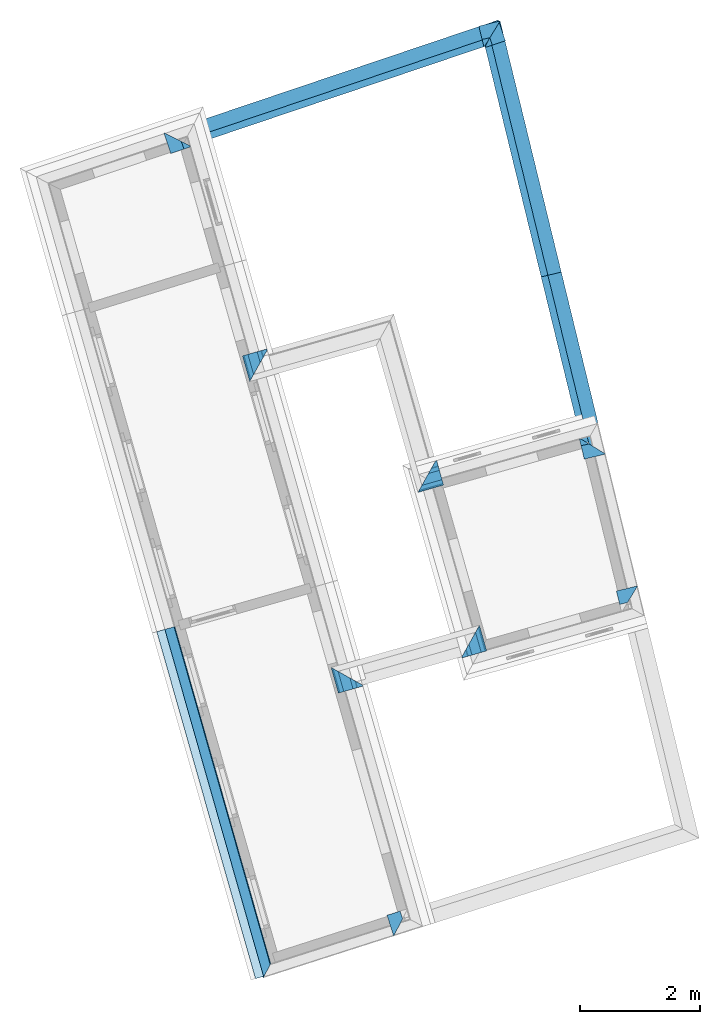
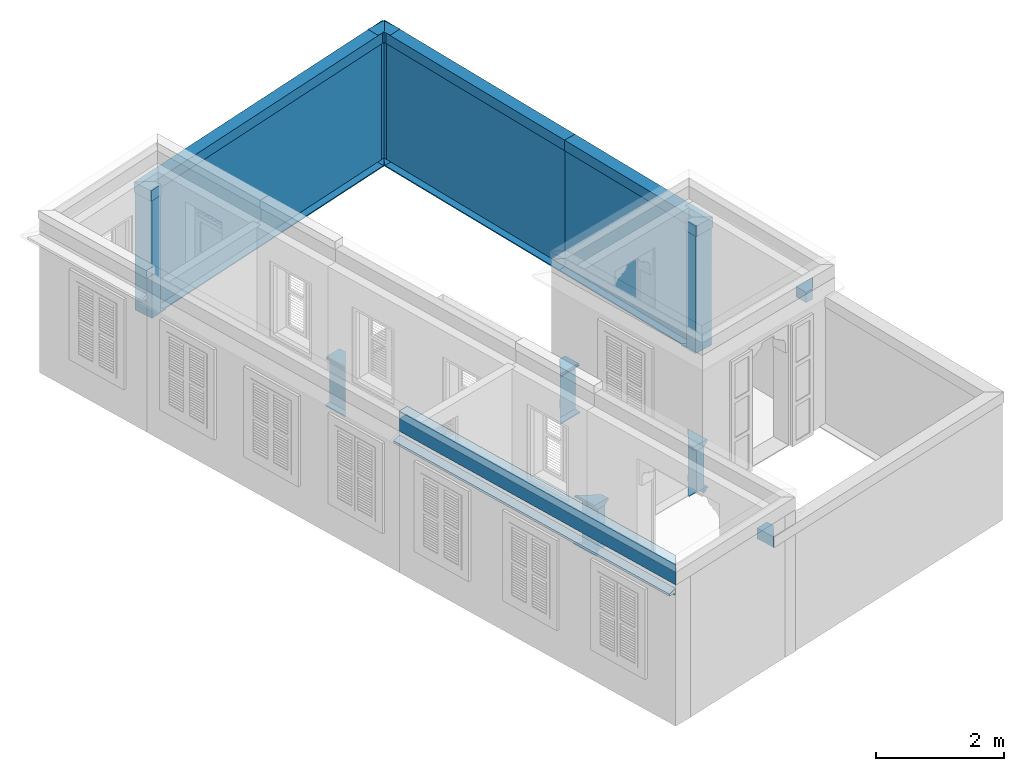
# One storey, part 11 of 13: 28 walls, 3 roofs.
"""IFC4 building model written with IfcOpenShell, lengths in metres."""

from ifc_helpers import new_model, si_unit, frame, origin_with_axes, place, context, subcontext, project, spatial, polyline, outline, extrude, clip, halfspace, material_profile, profile_set, profile_usage, type_object, element, save


model = new_model("IFC4")

# Units and contexts
model_context = context("Model", 3, world=origin_with_axes())
body_context = subcontext(model_context, "Body", "Model", "MODEL_VIEW")
ifc_project = project(units=[si_unit("PLANEANGLEUNIT", "RADIAN"), si_unit("MASSUNIT", "GRAM", prefix="KILO"), si_unit("FORCEUNIT", "NEWTON", prefix="KILO"), si_unit("LENGTHUNIT", "METRE"), si_unit("AREAUNIT", "SQUARE_METRE"), si_unit("VOLUMEUNIT", "CUBIC_METRE")], contexts=[model_context, model_context])

# Site, building, storey
site_placement = place(None, origin_with_axes())
site = spatial("IfcSite", under=ifc_project, at=site_placement, Name="Site plot-3", CompositionType="ELEMENT")
building_placement = place(None, origin_with_axes())
building = spatial("IfcBuilding", under=site, at=building_placement, Name="Building plot-3", CompositionType="ELEMENT")
storey_placement = place(None, frame((0.0, 0.0, 3.3), z_axis=(0.0, 0.0, 1.0), x_axis=(1.0, 0.0, 0.0)))
storey = spatial("IfcBuildingStorey", under=building, at=storey_placement, Name="plot-3 1", CompositionType="ELEMENT", Elevation=3.3)

# Walls
ifc_material_profile_1 = material_profile(None, outline(polyline([(0.25, 0.0), (0.25, 2.245), (0.05, 2.245), (0.05, 0.02), (-0.08, 0.02), (-0.08, 0.0), (0.25, 0.0)])))
ifc_profile_set_1 = profile_set([ifc_material_profile_1])
ifc_profile_usage_1 = profile_usage(ifc_profile_set_1)
wall_type_1 = type_object("IfcWallType", Name="parapet street_0", PredefinedType="PARAPET", material=ifc_profile_set_1)
wall_1_placement = place(storey_placement, frame((13.7820953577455, 31.4328664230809, 0.0), z_axis=(0.31946404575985, -0.947598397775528, 0.0), x_axis=(0.947598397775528, 0.31946404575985, 0.0)))
element("IfcWall", 1, at=wall_1_placement, inside=storey, type_object=wall_type_1, material=ifc_profile_usage_1, Name="parapet street_0", context=body_context, shape_type="Clipping", body=[
    clip(clip(extrude(outline(polyline([(0.25, 0.0), (0.25, 2.245), (0.05, 2.245), (0.05, 0.02), (-0.08, 0.02), (-0.08, 0.0), (0.25, 0.0)])), origin_with_axes(), (0.0, 0.0, 1.0), 2.1), halfspace(frame((0.0, 0.0, 1.1), z_axis=(-1.39349996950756e-15, 0.0, -1.0), x_axis=(0.0, 1.0, 0.0)), True)), halfspace(frame((0.0, 0.0, 1.0), z_axis=(-0.707106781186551, 0.0, -0.707106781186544), x_axis=(0.0, 1.0, 0.0)), False)),
])
ifc_profile_usage_2 = profile_usage(ifc_profile_set_1)
wall_2_placement = place(storey_placement, frame((8.0762523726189, 28.4539550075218, 0.0), z_axis=(0.947598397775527, 0.319464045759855, 0.0), x_axis=(-0.319464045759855, 0.947598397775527, 0.0)))
element("IfcWall", 2, at=wall_2_placement, inside=storey, type_object=wall_type_1, material=ifc_profile_usage_2, Name="parapet street_0", context=body_context, shape_type="Clipping", body=[
    clip(clip(extrude(outline(polyline([(0.25, 0.0), (0.25, 2.245), (0.05, 2.245), (0.05, 0.02), (-0.08, 0.02), (-0.08, 0.0), (0.25, 0.0)])), origin_with_axes(), (0.0, 0.0, 1.0), 7.35850276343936), halfspace(frame((0.0, 0.0, 6.35850276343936), z_axis=(0.707106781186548, 0.0, -0.707106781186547), x_axis=(0.0, 1.0, 0.0)), True)), halfspace(frame((0.0, 0.0, 1.0), z_axis=(-0.707106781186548, 0.0, -0.707106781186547), x_axis=(0.0, 1.0, 0.0)), False)),
])
ifc_profile_usage_3 = profile_usage(ifc_profile_set_1)
wall_3_placement = place(storey_placement, frame((9.37526122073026, 27.7310608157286, 0.0), z_axis=(-0.31946404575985, 0.947598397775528, 0.0), x_axis=(-0.947598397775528, -0.31946404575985, 0.0)))
element("IfcWall", 3, at=wall_3_placement, inside=storey, type_object=wall_type_1, material=ifc_profile_usage_3, Name="parapet street_0", context=body_context, shape_type="Clipping", body=[
    clip(clip(extrude(outline(polyline([(0.25, 0.0), (0.25, 2.245), (0.05, 2.245), (0.05, 0.02), (-0.08, 0.02), (-0.08, 0.0), (0.25, 0.0)])), origin_with_axes(), (0.0, 0.0, 1.0), 2.1), halfspace(frame((0.0, 0.0, 1.1), z_axis=(0.707106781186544, 0.0, -0.707106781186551), x_axis=(0.0, 1.0, 0.0)), True)), halfspace(frame((0.0, 0.0, 1.0), z_axis=(-9.49410759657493e-16, 0.0, -1.0), x_axis=(0.0, 1.0, 0.0)), False)),
])
ifc_material_profile_2 = material_profile(None, outline(polyline([(0.265, 2.245), (0.265, 2.445), (0.035, 2.445), (0.035, 2.245), (0.265, 2.245)])))
ifc_profile_set_2 = profile_set([ifc_material_profile_2])
ifc_profile_usage_4 = profile_usage(ifc_profile_set_2)
wall_type_2 = type_object("IfcWallType", Name="parapet street_1", PredefinedType="PARAPET", material=ifc_profile_set_2)
wall_4_placement = place(storey_placement, frame((13.7820953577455, 31.4328664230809, 0.0), z_axis=(0.31946404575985, -0.947598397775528, 0.0), x_axis=(0.947598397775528, 0.31946404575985, 0.0)))
element("IfcWall", 4, at=wall_4_placement, inside=storey, type_object=wall_type_2, material=ifc_profile_usage_4, Name="parapet street_1", context=body_context, shape_type="Clipping", body=[
    clip(clip(extrude(outline(polyline([(0.265, 2.245), (0.265, 2.445), (0.035, 2.445), (0.035, 2.245), (0.265, 2.245)])), origin_with_axes(), (0.0, 0.0, 1.0), 2.1), halfspace(frame((0.0, 0.0, 1.1), z_axis=(-1.39349996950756e-15, 0.0, -1.0), x_axis=(0.0, 1.0, 0.0)), True)), halfspace(frame((0.0, 0.0, 1.0), z_axis=(-0.707106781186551, 0.0, -0.707106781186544), x_axis=(0.0, 1.0, 0.0)), False)),
])
ifc_profile_usage_5 = profile_usage(ifc_profile_set_2)
wall_5_placement = place(storey_placement, frame((8.0762523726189, 28.4539550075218, 0.0), z_axis=(0.947598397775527, 0.319464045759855, 0.0), x_axis=(-0.319464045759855, 0.947598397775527, 0.0)))
element("IfcWall", 5, at=wall_5_placement, inside=storey, type_object=wall_type_2, material=ifc_profile_usage_5, Name="parapet street_1", context=body_context, shape_type="Clipping", body=[
    clip(clip(extrude(outline(polyline([(0.265, 2.245), (0.265, 2.445), (0.035, 2.445), (0.035, 2.245), (0.265, 2.245)])), origin_with_axes(), (0.0, 0.0, 1.0), 7.35850276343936), halfspace(frame((0.0, 0.0, 6.35850276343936), z_axis=(0.707106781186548, 0.0, -0.707106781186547), x_axis=(0.0, 1.0, 0.0)), True)), halfspace(frame((0.0, 0.0, 1.0), z_axis=(-0.707106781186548, 0.0, -0.707106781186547), x_axis=(0.0, 1.0, 0.0)), False)),
])
ifc_profile_usage_6 = profile_usage(ifc_profile_set_2)
wall_6_placement = place(storey_placement, frame((9.37526122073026, 27.7310608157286, 0.0), z_axis=(-0.31946404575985, 0.947598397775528, 0.0), x_axis=(-0.947598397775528, -0.31946404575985, 0.0)))
element("IfcWall", 6, at=wall_6_placement, inside=storey, type_object=wall_type_2, material=ifc_profile_usage_6, Name="parapet street_1", context=body_context, shape_type="Clipping", body=[
    clip(clip(extrude(outline(polyline([(0.265, 2.245), (0.265, 2.445), (0.035, 2.445), (0.035, 2.245), (0.265, 2.245)])), origin_with_axes(), (0.0, 0.0, 1.0), 2.1), halfspace(frame((0.0, 0.0, 1.1), z_axis=(0.707106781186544, 0.0, -0.707106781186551), x_axis=(0.0, 1.0, 0.0)), True)), halfspace(frame((0.0, 0.0, 1.0), z_axis=(-9.49410759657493e-16, 0.0, -1.0), x_axis=(0.0, 1.0, 0.0)), False)),
])
ifc_material_profile_3 = material_profile(None, outline(polyline([(0.25, 0.0), (0.25, 2.245), (0.05, 2.245), (0.05, 0.02), (-0.08, 0.02), (-0.08, 0.0), (0.25, 0.0)])))
ifc_profile_set_3 = profile_set([ifc_material_profile_3])
ifc_profile_usage_7 = profile_usage(ifc_profile_set_3)
wall_type_3 = type_object("IfcWallType", Name="parapet party_0", PredefinedType="PARAPET", material=ifc_profile_set_3)
wall_7_placement = place(storey_placement, frame((16.7065510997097, 24.0145612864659, 0.0), z_axis=(-0.971605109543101, -0.236608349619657, 0.0), x_axis=(0.236608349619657, -0.971605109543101, 0.0)))
element("IfcWall", 7, at=wall_7_placement, inside=storey, type_object=wall_type_3, material=ifc_profile_usage_7, Name="parapet party_0", context=body_context, shape_type="Clipping", body=[
    clip(clip(extrude(outline(polyline([(0.25, 0.0), (0.25, 2.245), (0.05, 2.245), (0.05, 0.02), (-0.08, 0.02), (-0.08, 0.0), (0.25, 0.0)])), origin_with_axes(), (0.0, 0.0, 1.0), 2.1), halfspace(frame((0.0, 0.0, 1.1), z_axis=(1.04899068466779e-15, 0.0, -1.0), x_axis=(0.0, 1.0, 0.0)), True)), halfspace(frame((0.0, 0.0, 1.0), z_axis=(-0.707106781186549, 0.0, -0.707106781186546), x_axis=(0.0, 1.0, 0.0)), False)),
])
ifc_profile_usage_8 = profile_usage(ifc_profile_set_3)
wall_8_placement = place(storey_placement, frame((14.8221364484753, 27.5263008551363, 0.0), z_axis=(0.236608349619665, -0.9716051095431, 0.0), x_axis=(0.9716051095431, 0.236608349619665, 0.0)))
element("IfcWall", 8, at=wall_8_placement, inside=storey, type_object=wall_type_3, material=ifc_profile_usage_8, Name="parapet party_0", context=body_context, shape_type="Clipping", body=[
    clip(clip(extrude(outline(polyline([(0.25, 0.0), (0.25, 2.245), (0.05, 2.245), (0.05, 0.02), (-0.08, 0.02), (-0.08, 0.0), (0.25, 0.0)])), origin_with_axes(), (0.0, 0.0, 1.0), 4.85789234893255), halfspace(frame((0.0, 0.0, 3.85789234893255), z_axis=(0.707106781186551, 0.0, -0.707106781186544), x_axis=(0.0, 1.0, 0.0)), True)), halfspace(frame((0.0, 0.0, 1.0), z_axis=(-6.12323399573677e-17, 0.0, -1.0), x_axis=(0.0, 1.0, 0.0)), False)),
])
ifc_profile_usage_9 = profile_usage(ifc_profile_set_3)
wall_9_placement = place(storey_placement, frame((13.8649510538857, 31.4568731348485, 0.0), z_axis=(0.236608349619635, -0.971605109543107, 0.0), x_axis=(0.971605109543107, 0.236608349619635, 0.0)))
element("IfcWall", 9, at=wall_9_placement, inside=storey, type_object=wall_type_3, material=ifc_profile_usage_9, Name="parapet party_0", context=body_context, shape_type="Clipping", body=[
    clip(clip(extrude(outline(polyline([(0.25, 0.0), (0.25, 2.245), (0.05, 2.245), (0.05, 0.02), (-0.08, 0.02), (-0.08, 0.0), (0.25, 0.0)])), origin_with_axes(), (0.0, 0.0, 1.0), 6.04544216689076), halfspace(frame((0.0, 0.0, 5.04544216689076), z_axis=(-3.13695216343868e-14, 0.0, -1.0), x_axis=(0.0, 1.0, 0.0)), True)), halfspace(frame((0.0, 0.0, 1.0), z_axis=(-0.707106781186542, 0.0, -0.707106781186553), x_axis=(0.0, 1.0, 0.0)), False)),
])
ifc_profile_usage_10 = profile_usage(ifc_profile_set_3)
wall_10_placement = place(storey_placement, frame((13.0327937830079, 30.2249988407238, 0.0), z_axis=(0.97160510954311, 0.236608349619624, 0.0), x_axis=(-0.236608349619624, 0.97160510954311, 0.0)))
element("IfcWall", 10, at=wall_10_placement, inside=storey, type_object=wall_type_3, material=ifc_profile_usage_10, Name="parapet party_0", context=body_context, shape_type="Clipping", body=[
    clip(clip(extrude(outline(polyline([(0.25, 0.0), (0.25, 2.245), (0.05, 2.245), (0.05, 0.02), (-0.08, 0.02), (-0.08, 0.0), (0.25, 0.0)])), origin_with_axes(), (0.0, 0.0, 1.0), 2.1), halfspace(frame((0.0, 0.0, 1.1), z_axis=(0.707106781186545, 0.0, -0.70710678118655), x_axis=(0.0, 1.0, 0.0)), True)), halfspace(frame((0.0, 0.0, 1.0), z_axis=(-9.49410759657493e-16, 0.0, -1.0), x_axis=(0.0, 1.0, 0.0)), False)),
])
ifc_material_profile_4 = material_profile(None, outline(polyline([(0.265, 2.245), (0.265, 2.445), (0.035, 2.445), (0.035, 2.245), (0.265, 2.245)])))
ifc_profile_set_4 = profile_set([ifc_material_profile_4])
ifc_profile_usage_11 = profile_usage(ifc_profile_set_4)
wall_type_4 = type_object("IfcWallType", Name="parapet party_1", PredefinedType="PARAPET", material=ifc_profile_set_4)
wall_11_placement = place(storey_placement, frame((16.7065510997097, 24.0145612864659, 0.0), z_axis=(-0.971605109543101, -0.236608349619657, 0.0), x_axis=(0.236608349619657, -0.971605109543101, 0.0)))
element("IfcWall", 11, at=wall_11_placement, inside=storey, type_object=wall_type_4, material=ifc_profile_usage_11, Name="parapet party_1", context=body_context, shape_type="Clipping", body=[
    clip(clip(extrude(outline(polyline([(0.265, 2.245), (0.265, 2.445), (0.035, 2.445), (0.035, 2.245), (0.265, 2.245)])), origin_with_axes(), (0.0, 0.0, 1.0), 2.1), halfspace(frame((0.0, 0.0, 1.1), z_axis=(1.04899068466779e-15, 0.0, -1.0), x_axis=(0.0, 1.0, 0.0)), True)), halfspace(frame((0.0, 0.0, 1.0), z_axis=(-0.707106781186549, 0.0, -0.707106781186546), x_axis=(0.0, 1.0, 0.0)), False)),
])
ifc_profile_usage_12 = profile_usage(ifc_profile_set_4)
wall_12_placement = place(storey_placement, frame((14.8221364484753, 27.5263008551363, 0.0), z_axis=(0.236608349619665, -0.9716051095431, 0.0), x_axis=(0.9716051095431, 0.236608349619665, 0.0)))
element("IfcWall", 12, at=wall_12_placement, inside=storey, type_object=wall_type_4, material=ifc_profile_usage_12, Name="parapet party_1", context=body_context, shape_type="Clipping", body=[
    clip(clip(extrude(outline(polyline([(0.265, 2.245), (0.265, 2.445), (0.035, 2.445), (0.035, 2.245), (0.265, 2.245)])), origin_with_axes(), (0.0, 0.0, 1.0), 4.85789234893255), halfspace(frame((0.0, 0.0, 3.85789234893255), z_axis=(0.707106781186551, 0.0, -0.707106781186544), x_axis=(0.0, 1.0, 0.0)), True)), halfspace(frame((0.0, 0.0, 1.0), z_axis=(-6.12323399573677e-17, 0.0, -1.0), x_axis=(0.0, 1.0, 0.0)), False)),
])
ifc_profile_usage_13 = profile_usage(ifc_profile_set_4)
wall_13_placement = place(storey_placement, frame((13.8649510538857, 31.4568731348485, 0.0), z_axis=(0.236608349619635, -0.971605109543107, 0.0), x_axis=(0.971605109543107, 0.236608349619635, 0.0)))
element("IfcWall", 13, at=wall_13_placement, inside=storey, type_object=wall_type_4, material=ifc_profile_usage_13, Name="parapet party_1", context=body_context, shape_type="Clipping", body=[
    clip(clip(extrude(outline(polyline([(0.265, 2.245), (0.265, 2.445), (0.035, 2.445), (0.035, 2.245), (0.265, 2.245)])), origin_with_axes(), (0.0, 0.0, 1.0), 6.04544216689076), halfspace(frame((0.0, 0.0, 5.04544216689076), z_axis=(-3.13695216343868e-14, 0.0, -1.0), x_axis=(0.0, 1.0, 0.0)), True)), halfspace(frame((0.0, 0.0, 1.0), z_axis=(-0.707106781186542, 0.0, -0.707106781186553), x_axis=(0.0, 1.0, 0.0)), False)),
])
ifc_profile_usage_14 = profile_usage(ifc_profile_set_4)
wall_14_placement = place(storey_placement, frame((13.0327937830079, 30.2249988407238, 0.0), z_axis=(0.97160510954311, 0.236608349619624, 0.0), x_axis=(-0.236608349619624, 0.97160510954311, 0.0)))
element("IfcWall", 14, at=wall_14_placement, inside=storey, type_object=wall_type_4, material=ifc_profile_usage_14, Name="parapet party_1", context=body_context, shape_type="Clipping", body=[
    clip(clip(extrude(outline(polyline([(0.265, 2.245), (0.265, 2.445), (0.035, 2.445), (0.035, 2.245), (0.265, 2.245)])), origin_with_axes(), (0.0, 0.0, 1.0), 2.1), halfspace(frame((0.0, 0.0, 1.1), z_axis=(0.707106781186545, 0.0, -0.70710678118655), x_axis=(0.0, 1.0, 0.0)), True)), halfspace(frame((0.0, 0.0, 1.0), z_axis=(-9.49410759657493e-16, 0.0, -1.0), x_axis=(0.0, 1.0, 0.0)), False)),
])
ifc_material_profile_5 = material_profile(None, outline(polyline([(0.265, 2.245), (0.265, 2.445), (0.035, 2.445), (0.035, 2.245), (0.265, 2.245)])))
ifc_profile_set_5 = profile_set([ifc_material_profile_5])
ifc_profile_usage_15 = profile_usage(ifc_profile_set_5)
wall_type_5 = type_object("IfcWallType", Name="parapet party_1", PredefinedType="PARAPET", material=ifc_profile_set_5)
wall_15_placement = place(storey_placement, frame((12.9981377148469, 14.9234953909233, 0.0), z_axis=(-0.305393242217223, 0.952226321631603, 0.0), x_axis=(-0.952226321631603, -0.305393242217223, 0.0)))
element("IfcWall", 15, at=wall_15_placement, inside=storey, type_object=wall_type_5, material=ifc_profile_usage_15, Name="parapet party_1", context=body_context, shape_type="Clipping", body=[
    clip(clip(extrude(outline(polyline([(0.265, 2.245), (0.265, 2.445), (0.035, 2.445), (0.035, 2.245), (0.265, 2.245)])), origin_with_axes(), (0.0, 0.0, 1.0), 2.1), halfspace(frame((0.0, 0.0, 1.1), z_axis=(6.04901474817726e-16, 0.0, -1.0), x_axis=(0.0, 1.0, 0.0)), True)), halfspace(frame((0.0, 0.0, 1.0), z_axis=(-0.707106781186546, 0.0, -0.707106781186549), x_axis=(0.0, 1.0, 0.0)), False)),
])
ifc_profile_usage_16 = profile_usage(ifc_profile_set_5)
wall_16_placement = place(storey_placement, frame((15.3270406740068, 20.8039365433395, 0.0), z_axis=(0.97160510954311, 0.236608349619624, 0.0), x_axis=(-0.236608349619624, 0.97160510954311, 0.0)))
element("IfcWall", 16, at=wall_16_placement, inside=storey, type_object=wall_type_5, material=ifc_profile_usage_16, Name="parapet party_1", context=body_context, shape_type="Clipping", body=[
    clip(clip(extrude(outline(polyline([(0.265, 2.245), (0.265, 2.445), (0.035, 2.445), (0.035, 2.245), (0.265, 2.245)])), origin_with_axes(), (0.0, 0.0, 1.0), 2.1), halfspace(frame((0.0, 0.0, 1.1), z_axis=(0.707106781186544, 0.0, -0.707106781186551), x_axis=(0.0, 1.0, 0.0)), True)), halfspace(frame((0.0, 0.0, 1.0), z_axis=(8.26946079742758e-16, 0.0, -1.0), x_axis=(0.0, 1.0, 0.0)), False)),
])
ifc_material_profile_6 = material_profile(None, outline(polyline([(0.25, 0.0), (0.25, 0.795), (0.09, 0.795), (0.09, 0.02), (-0.08, 0.02), (-0.08, 0.0), (0.25, 0.0)])))
ifc_profile_set_6 = profile_set([ifc_material_profile_6])
ifc_profile_usage_17 = profile_usage(ifc_profile_set_6)
wall_type_6 = type_object("IfcWallType", Name="parapet internal_0", PredefinedType="PARAPET", material=ifc_profile_set_6)
wall_17_placement = place(storey_placement, frame((13.4401764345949, 21.2631160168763, 0.0), z_axis=(0.273606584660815, -0.961841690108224, 0.0), x_axis=(0.961841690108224, 0.273606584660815, 0.0)))
element("IfcWall", 17, at=wall_17_placement, inside=storey, type_object=wall_type_6, material=ifc_profile_usage_17, Name="parapet internal_0", context=body_context, shape_type="Clipping", body=[
    clip(clip(extrude(outline(polyline([(0.25, 0.0), (0.25, 0.795), (0.09, 0.795), (0.09, 0.02), (-0.08, 0.02), (-0.08, 0.0), (0.25, 0.0)])), origin_with_axes(), (0.0, 0.0, 1.0), 2.1), halfspace(frame((0.0, 0.0, 1.1), z_axis=(-6.12323399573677e-17, 0.0, -1.0), x_axis=(0.0, 1.0, 0.0)), True)), halfspace(frame((0.0, 0.0, 1.0), z_axis=(-0.707106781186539, 0.0, -0.707106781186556), x_axis=(0.0, 1.0, 0.0)), False)),
])
ifc_profile_usage_18 = profile_usage(ifc_profile_set_6)
wall_18_placement = place(storey_placement, frame((12.2036622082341, 18.7280642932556, 0.0), z_axis=(-0.273606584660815, 0.961841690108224, 0.0), x_axis=(-0.961841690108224, -0.273606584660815, 0.0)))
element("IfcWall", 18, at=wall_18_placement, inside=storey, type_object=wall_type_6, material=ifc_profile_usage_18, Name="parapet internal_0", context=body_context, shape_type="Clipping", body=[
    clip(clip(extrude(outline(polyline([(0.25, 0.0), (0.25, 0.795), (0.09, 0.795), (0.09, 0.02), (-0.08, 0.02), (-0.08, 0.0), (0.25, 0.0)])), origin_with_axes(), (0.0, 0.0, 1.0), 2.1), halfspace(frame((0.0, 0.0, 1.1), z_axis=(0.707106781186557, 0.0, -0.707106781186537), x_axis=(0.0, 1.0, 0.0)), True)), halfspace(frame((0.0, 0.0, 1.0), z_axis=(1.04899068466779e-15, 0.0, -1.0), x_axis=(0.0, 1.0, 0.0)), False)),
])
ifc_material_profile_7 = material_profile(None, outline(polyline([(0.265, 0.795), (0.268, 0.807), (0.274, 0.816), (0.283, 0.822), (0.295, 0.825), (0.295, 0.84), (0.305, 0.84), (0.317, 0.842), (0.326, 0.849), (0.333, 0.858), (0.335, 0.87), (0.333, 0.882), (0.326, 0.891), (0.317, 0.898), (0.305, 0.9), (0.035, 0.9), (0.023, 0.898), (0.014, 0.891), (0.007, 0.882), (0.005, 0.87), (0.007, 0.858), (0.014, 0.849), (0.023, 0.842), (0.035, 0.84), (0.045, 0.84), (0.045, 0.825), (0.057, 0.822), (0.066, 0.816), (0.072, 0.807), (0.075, 0.795), (0.265, 0.795)])))
ifc_profile_set_7 = profile_set([ifc_material_profile_7])
ifc_profile_usage_19 = profile_usage(ifc_profile_set_7)
wall_type_7 = type_object("IfcWallType", Name="parapet internal_1", PredefinedType="PARAPET", material=ifc_profile_set_7)
wall_19_placement = place(storey_placement, frame((13.4401764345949, 21.2631160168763, 0.0), z_axis=(0.273606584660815, -0.961841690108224, 0.0), x_axis=(0.961841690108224, 0.273606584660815, 0.0)))
element("IfcWall", 19, at=wall_19_placement, inside=storey, type_object=wall_type_7, material=ifc_profile_usage_19, Name="parapet internal_1", context=body_context, shape_type="Clipping", body=[
    clip(clip(extrude(outline(polyline([(0.265, 0.795), (0.268, 0.807), (0.274, 0.816), (0.283, 0.822), (0.295, 0.825), (0.295, 0.84), (0.305, 0.84), (0.317, 0.842), (0.326, 0.849), (0.333, 0.858), (0.335, 0.87), (0.333, 0.882), (0.326, 0.891), (0.317, 0.898), (0.305, 0.9), (0.035, 0.9), (0.023, 0.898), (0.014, 0.891), (0.007, 0.882), (0.005, 0.87), (0.007, 0.858), (0.014, 0.849), (0.023, 0.842), (0.035, 0.84), (0.045, 0.84), (0.045, 0.825), (0.057, 0.822), (0.066, 0.816), (0.072, 0.807), (0.075, 0.795), (0.265, 0.795)])), origin_with_axes(), (0.0, 0.0, 1.0), 2.1), halfspace(frame((0.0, 0.0, 1.1), z_axis=(-6.12323399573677e-17, 0.0, -1.0), x_axis=(0.0, 1.0, 0.0)), True)), halfspace(frame((0.0, 0.0, 1.0), z_axis=(-0.707106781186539, 0.0, -0.707106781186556), x_axis=(0.0, 1.0, 0.0)), False)),
])
ifc_profile_usage_20 = profile_usage(ifc_profile_set_7)
wall_20_placement = place(storey_placement, frame((12.2036622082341, 18.7280642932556, 0.0), z_axis=(-0.273606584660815, 0.961841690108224, 0.0), x_axis=(-0.961841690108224, -0.273606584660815, 0.0)))
element("IfcWall", 20, at=wall_20_placement, inside=storey, type_object=wall_type_7, material=ifc_profile_usage_20, Name="parapet internal_1", context=body_context, shape_type="Clipping", body=[
    clip(clip(extrude(outline(polyline([(0.265, 0.795), (0.268, 0.807), (0.274, 0.816), (0.283, 0.822), (0.295, 0.825), (0.295, 0.84), (0.305, 0.84), (0.317, 0.842), (0.326, 0.849), (0.333, 0.858), (0.335, 0.87), (0.333, 0.882), (0.326, 0.891), (0.317, 0.898), (0.305, 0.9), (0.035, 0.9), (0.023, 0.898), (0.014, 0.891), (0.007, 0.882), (0.005, 0.87), (0.007, 0.858), (0.014, 0.849), (0.023, 0.842), (0.035, 0.84), (0.045, 0.84), (0.045, 0.825), (0.057, 0.822), (0.066, 0.816), (0.072, 0.807), (0.075, 0.795), (0.265, 0.795)])), origin_with_axes(), (0.0, 0.0, 1.0), 2.1), halfspace(frame((0.0, 0.0, 1.1), z_axis=(0.707106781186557, 0.0, -0.707106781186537), x_axis=(0.0, 1.0, 0.0)), True)), halfspace(frame((0.0, 0.0, 1.0), z_axis=(1.04899068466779e-15, 0.0, -1.0), x_axis=(0.0, 1.0, 0.0)), False)),
])
ifc_material_profile_8 = material_profile(None, outline(polyline([(0.25, -0.1), (0.265, -0.1), (0.265, -0.085), (0.278, -0.084), (0.289, -0.081), (0.301, -0.074), (0.309, -0.065), (0.315, -0.055), (0.324, -0.044), (0.334, -0.038), (0.345, -0.035), (0.345, -0.015), (0.25, 0.0), (0.25, -0.1)])))
ifc_profile_set_8 = profile_set([ifc_material_profile_8])
ifc_profile_usage_21 = profile_usage(ifc_profile_set_8)
wall_type_8 = type_object("IfcWallType", Name="parapet internal_2", PredefinedType="PARAPET", material=ifc_profile_set_8)
wall_21_placement = place(storey_placement, frame((13.4401764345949, 21.2631160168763, 0.0), z_axis=(0.273606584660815, -0.961841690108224, 0.0), x_axis=(0.961841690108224, 0.273606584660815, 0.0)))
element("IfcWall", 21, at=wall_21_placement, inside=storey, type_object=wall_type_8, material=ifc_profile_usage_21, Name="parapet internal_2", context=body_context, shape_type="Clipping", body=[
    clip(clip(extrude(outline(polyline([(0.25, -0.1), (0.265, -0.1), (0.265, -0.085), (0.278, -0.084), (0.289, -0.081), (0.301, -0.074), (0.309, -0.065), (0.315, -0.055), (0.324, -0.044), (0.334, -0.038), (0.345, -0.035), (0.345, -0.015), (0.25, 0.0), (0.25, -0.1)])), origin_with_axes(), (0.0, 0.0, 1.0), 2.1), halfspace(frame((0.0, 0.0, 1.1), z_axis=(-6.12323399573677e-17, 0.0, -1.0), x_axis=(0.0, 1.0, 0.0)), True)), halfspace(frame((0.0, 0.0, 1.0), z_axis=(-0.707106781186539, 0.0, -0.707106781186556), x_axis=(0.0, 1.0, 0.0)), False)),
])
ifc_profile_usage_22 = profile_usage(ifc_profile_set_8)
wall_22_placement = place(storey_placement, frame((12.2036622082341, 18.7280642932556, 0.0), z_axis=(-0.273606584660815, 0.961841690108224, 0.0), x_axis=(-0.961841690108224, -0.273606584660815, 0.0)))
element("IfcWall", 22, at=wall_22_placement, inside=storey, type_object=wall_type_8, material=ifc_profile_usage_22, Name="parapet internal_2", context=body_context, shape_type="Clipping", body=[
    clip(clip(extrude(outline(polyline([(0.25, -0.1), (0.265, -0.1), (0.265, -0.085), (0.278, -0.084), (0.289, -0.081), (0.301, -0.074), (0.309, -0.065), (0.315, -0.055), (0.324, -0.044), (0.334, -0.038), (0.345, -0.035), (0.345, -0.015), (0.25, 0.0), (0.25, -0.1)])), origin_with_axes(), (0.0, 0.0, 1.0), 2.1), halfspace(frame((0.0, 0.0, 1.1), z_axis=(0.707106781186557, 0.0, -0.707106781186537), x_axis=(0.0, 1.0, 0.0)), True)), halfspace(frame((0.0, 0.0, 1.0), z_axis=(1.04899068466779e-15, 0.0, -1.0), x_axis=(0.0, 1.0, 0.0)), False)),
])
ifc_material_profile_9 = material_profile(None, outline(polyline([(0.25, 0.0), (0.25, 0.795), (0.09, 0.795), (0.09, 0.02), (-0.08, 0.02), (-0.08, 0.0), (0.25, 0.0)])))
ifc_profile_set_9 = profile_set([ifc_material_profile_9])
ifc_profile_usage_23 = profile_usage(ifc_profile_set_9)
wall_type_9 = type_object("IfcWallType", Name="parapet internal_0", PredefinedType="PARAPET", material=ifc_profile_set_9)
wall_23_placement = place(storey_placement, frame((10.631296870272, 24.2555867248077, 0.0), z_axis=(-0.273606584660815, 0.961841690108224, 0.0), x_axis=(-0.961841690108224, -0.273606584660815, 0.0)))
element("IfcWall", 23, at=wall_23_placement, inside=storey, type_object=wall_type_9, material=ifc_profile_usage_23, Name="parapet internal_0", context=body_context, shape_type="Clipping", body=[
    clip(clip(extrude(outline(polyline([(0.25, 0.0), (0.25, 0.795), (0.09, 0.795), (0.09, 0.02), (-0.08, 0.02), (-0.08, 0.0), (0.25, 0.0)])), origin_with_axes(), (0.0, 0.0, 1.0), 2.1), halfspace(frame((0.0, 0.0, 1.1), z_axis=(1.60812264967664e-16, 0.0, -1.0), x_axis=(0.0, 1.0, 0.0)), True)), halfspace(frame((0.0, 0.0, 1.0), z_axis=(-0.707106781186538, 0.0, -0.707106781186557), x_axis=(0.0, 1.0, 0.0)), False)),
])
ifc_profile_usage_24 = profile_usage(ifc_profile_set_9)
wall_24_placement = place(storey_placement, frame((14.2215227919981, 23.6697412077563, 0.0), z_axis=(-0.961841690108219, -0.273606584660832, 0.0), x_axis=(0.273606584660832, -0.961841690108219, 0.0)))
element("IfcWall", 24, at=wall_24_placement, inside=storey, type_object=wall_type_9, material=ifc_profile_usage_24, Name="parapet internal_0", context=body_context, shape_type="Clipping", body=[
    clip(clip(extrude(outline(polyline([(0.25, 0.0), (0.25, 0.795), (0.09, 0.795), (0.09, 0.02), (-0.08, 0.02), (-0.08, 0.0), (0.25, 0.0)])), origin_with_axes(), (0.0, 0.0, 1.0), 2.1), halfspace(frame((0.0, 0.0, 1.1), z_axis=(0.707106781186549, 0.0, -0.707106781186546), x_axis=(0.0, 1.0, 0.0)), True)), halfspace(frame((0.0, 0.0, 1.0), z_axis=(8.26946079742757e-16, 0.0, -1.0), x_axis=(0.0, 1.0, 0.0)), False)),
])
ifc_material_profile_10 = material_profile(None, outline(polyline([(0.265, 0.795), (0.268, 0.807), (0.274, 0.816), (0.283, 0.822), (0.295, 0.825), (0.295, 0.84), (0.305, 0.84), (0.317, 0.842), (0.326, 0.849), (0.333, 0.858), (0.335, 0.87), (0.333, 0.882), (0.326, 0.891), (0.317, 0.898), (0.305, 0.9), (0.035, 0.9), (0.023, 0.898), (0.014, 0.891), (0.007, 0.882), (0.005, 0.87), (0.007, 0.858), (0.014, 0.849), (0.023, 0.842), (0.035, 0.84), (0.045, 0.84), (0.045, 0.825), (0.057, 0.822), (0.066, 0.816), (0.072, 0.807), (0.075, 0.795), (0.265, 0.795)])))
ifc_profile_set_10 = profile_set([ifc_material_profile_10])
ifc_profile_usage_25 = profile_usage(ifc_profile_set_10)
wall_type_10 = type_object("IfcWallType", Name="parapet internal_1", PredefinedType="PARAPET", material=ifc_profile_set_10)
wall_25_placement = place(storey_placement, frame((10.631296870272, 24.2555867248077, 0.0), z_axis=(-0.273606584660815, 0.961841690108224, 0.0), x_axis=(-0.961841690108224, -0.273606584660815, 0.0)))
element("IfcWall", 25, at=wall_25_placement, inside=storey, type_object=wall_type_10, material=ifc_profile_usage_25, Name="parapet internal_1", context=body_context, shape_type="Clipping", body=[
    clip(clip(extrude(outline(polyline([(0.265, 0.795), (0.268, 0.807), (0.274, 0.816), (0.283, 0.822), (0.295, 0.825), (0.295, 0.84), (0.305, 0.84), (0.317, 0.842), (0.326, 0.849), (0.333, 0.858), (0.335, 0.87), (0.333, 0.882), (0.326, 0.891), (0.317, 0.898), (0.305, 0.9), (0.035, 0.9), (0.023, 0.898), (0.014, 0.891), (0.007, 0.882), (0.005, 0.87), (0.007, 0.858), (0.014, 0.849), (0.023, 0.842), (0.035, 0.84), (0.045, 0.84), (0.045, 0.825), (0.057, 0.822), (0.066, 0.816), (0.072, 0.807), (0.075, 0.795), (0.265, 0.795)])), origin_with_axes(), (0.0, 0.0, 1.0), 2.1), halfspace(frame((0.0, 0.0, 1.1), z_axis=(1.60812264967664e-16, 0.0, -1.0), x_axis=(0.0, 1.0, 0.0)), True)), halfspace(frame((0.0, 0.0, 1.0), z_axis=(-0.707106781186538, 0.0, -0.707106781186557), x_axis=(0.0, 1.0, 0.0)), False)),
])
ifc_profile_usage_26 = profile_usage(ifc_profile_set_10)
wall_26_placement = place(storey_placement, frame((14.2215227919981, 23.6697412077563, 0.0), z_axis=(-0.961841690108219, -0.273606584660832, 0.0), x_axis=(0.273606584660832, -0.961841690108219, 0.0)))
element("IfcWall", 26, at=wall_26_placement, inside=storey, type_object=wall_type_10, material=ifc_profile_usage_26, Name="parapet internal_1", context=body_context, shape_type="Clipping", body=[
    clip(clip(extrude(outline(polyline([(0.265, 0.795), (0.268, 0.807), (0.274, 0.816), (0.283, 0.822), (0.295, 0.825), (0.295, 0.84), (0.305, 0.84), (0.317, 0.842), (0.326, 0.849), (0.333, 0.858), (0.335, 0.87), (0.333, 0.882), (0.326, 0.891), (0.317, 0.898), (0.305, 0.9), (0.035, 0.9), (0.023, 0.898), (0.014, 0.891), (0.007, 0.882), (0.005, 0.87), (0.007, 0.858), (0.014, 0.849), (0.023, 0.842), (0.035, 0.84), (0.045, 0.84), (0.045, 0.825), (0.057, 0.822), (0.066, 0.816), (0.072, 0.807), (0.075, 0.795), (0.265, 0.795)])), origin_with_axes(), (0.0, 0.0, 1.0), 2.1), halfspace(frame((0.0, 0.0, 1.1), z_axis=(0.707106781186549, 0.0, -0.707106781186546), x_axis=(0.0, 1.0, 0.0)), True)), halfspace(frame((0.0, 0.0, 1.0), z_axis=(8.26946079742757e-16, 0.0, -1.0), x_axis=(0.0, 1.0, 0.0)), False)),
])
ifc_material_profile_11 = material_profile(None, outline(polyline([(0.25, -0.1), (0.265, -0.1), (0.265, -0.085), (0.278, -0.084), (0.289, -0.081), (0.301, -0.074), (0.309, -0.065), (0.315, -0.055), (0.324, -0.044), (0.334, -0.038), (0.345, -0.035), (0.345, -0.015), (0.25, 0.0), (0.25, -0.1)])))
ifc_profile_set_11 = profile_set([ifc_material_profile_11])
ifc_profile_usage_27 = profile_usage(ifc_profile_set_11)
wall_type_11 = type_object("IfcWallType", Name="parapet internal_2", PredefinedType="PARAPET", material=ifc_profile_set_11)
wall_27_placement = place(storey_placement, frame((10.631296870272, 24.2555867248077, 0.0), z_axis=(-0.273606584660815, 0.961841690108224, 0.0), x_axis=(-0.961841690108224, -0.273606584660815, 0.0)))
element("IfcWall", 27, at=wall_27_placement, inside=storey, type_object=wall_type_11, material=ifc_profile_usage_27, Name="parapet internal_2", context=body_context, shape_type="Clipping", body=[
    clip(clip(extrude(outline(polyline([(0.25, -0.1), (0.265, -0.1), (0.265, -0.085), (0.278, -0.084), (0.289, -0.081), (0.301, -0.074), (0.309, -0.065), (0.315, -0.055), (0.324, -0.044), (0.334, -0.038), (0.345, -0.035), (0.345, -0.015), (0.25, 0.0), (0.25, -0.1)])), origin_with_axes(), (0.0, 0.0, 1.0), 2.1), halfspace(frame((0.0, 0.0, 1.1), z_axis=(1.60812264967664e-16, 0.0, -1.0), x_axis=(0.0, 1.0, 0.0)), True)), halfspace(frame((0.0, 0.0, 1.0), z_axis=(-0.707106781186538, 0.0, -0.707106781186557), x_axis=(0.0, 1.0, 0.0)), False)),
])
ifc_profile_usage_28 = profile_usage(ifc_profile_set_11)
wall_28_placement = place(storey_placement, frame((14.2215227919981, 23.6697412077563, 0.0), z_axis=(-0.961841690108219, -0.273606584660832, 0.0), x_axis=(0.273606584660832, -0.961841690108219, 0.0)))
element("IfcWall", 28, at=wall_28_placement, inside=storey, type_object=wall_type_11, material=ifc_profile_usage_28, Name="parapet internal_2", context=body_context, shape_type="Clipping", body=[
    clip(clip(extrude(outline(polyline([(0.25, -0.1), (0.265, -0.1), (0.265, -0.085), (0.278, -0.084), (0.289, -0.081), (0.301, -0.074), (0.309, -0.065), (0.315, -0.055), (0.324, -0.044), (0.334, -0.038), (0.345, -0.035), (0.345, -0.015), (0.25, 0.0), (0.25, -0.1)])), origin_with_axes(), (0.0, 0.0, 1.0), 2.1), halfspace(frame((0.0, 0.0, 1.1), z_axis=(0.707106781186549, 0.0, -0.707106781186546), x_axis=(0.0, 1.0, 0.0)), True)), halfspace(frame((0.0, 0.0, 1.0), z_axis=(8.26946079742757e-16, 0.0, -1.0), x_axis=(0.0, 1.0, 0.0)), False)),
])

# Roofs
ifc_material_profile_12 = material_profile(None, outline(polyline([(0.25, 0.0), (0.25, 0.245), (0.09, 0.245), (0.09, 0.0), (0.25, 0.0)])))
ifc_profile_set_12 = profile_set([ifc_material_profile_12])
ifc_profile_usage_29 = profile_usage(ifc_profile_set_12)
roof_type_1 = type_object("IfcRoofType", Name="roofline_0", PredefinedType="FREEFORM", material=ifc_profile_set_12)
roof_1_placement = place(storey_placement, frame((10.7971194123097, 14.2181749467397, 2.7), z_axis=(-0.273606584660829, 0.96184169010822, 0.0), x_axis=(-0.96184169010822, -0.273606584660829, 0.0)))
element("IfcRoof", 29, at=roof_1_placement, inside=storey, type_object=roof_type_1, material=ifc_profile_usage_29, Name="roofline_0", context=body_context, shape_type="Clipping", body=[
    clip(clip(extrude(outline(polyline([(0.25, 0.0), (0.25, 0.245), (0.09, 0.245), (0.09, 0.0), (0.25, 0.0)])), origin_with_axes(), (0.0, 0.0, 1.0), 7.76600538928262), halfspace(frame((0.0, 0.0, 6.76600538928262), z_axis=(-9.49410759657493e-16, 0.0, -1.0), x_axis=(0.0, 1.0, 0.0)), True)), halfspace(frame((0.0, 0.0, 1.0), z_axis=(-0.718750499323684, 0.0, -0.695268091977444), x_axis=(0.0, 1.0, 0.0)), False)),
])
ifc_material_profile_13 = material_profile(None, outline(polyline([(0.265, 0.245), (0.265, 0.395), (0.075, 0.395), (0.075, 0.245), (0.265, 0.245)])))
ifc_profile_set_13 = profile_set([ifc_material_profile_13])
ifc_profile_usage_30 = profile_usage(ifc_profile_set_13)
roof_type_2 = type_object("IfcRoofType", Name="roofline_1", PredefinedType="FREEFORM", material=ifc_profile_set_13)
roof_2_placement = place(storey_placement, frame((10.7971194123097, 14.2181749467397, 2.7), z_axis=(-0.273606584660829, 0.96184169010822, 0.0), x_axis=(-0.96184169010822, -0.273606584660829, 0.0)))
element("IfcRoof", 30, at=roof_2_placement, inside=storey, type_object=roof_type_2, material=ifc_profile_usage_30, Name="roofline_1", context=body_context, shape_type="Clipping", body=[
    clip(clip(extrude(outline(polyline([(0.265, 0.245), (0.265, 0.395), (0.075, 0.395), (0.075, 0.245), (0.265, 0.245)])), origin_with_axes(), (0.0, 0.0, 1.0), 7.76600538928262), halfspace(frame((0.0, 0.0, 6.76600538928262), z_axis=(-9.49410759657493e-16, 0.0, -1.0), x_axis=(0.0, 1.0, 0.0)), True)), halfspace(frame((0.0, 0.0, 1.0), z_axis=(-0.718750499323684, 0.0, -0.695268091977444), x_axis=(0.0, 1.0, 0.0)), False)),
])
ifc_material_profile_14 = material_profile(None, outline(polyline([(0.25, -0.19), (0.275, -0.19), (0.275, -0.15), (0.39, -0.15), (0.39, -0.107509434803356), (0.25, -0.0629639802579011), (0.25, -0.19)])))
ifc_profile_set_14 = profile_set([ifc_material_profile_14])
ifc_profile_usage_31 = profile_usage(ifc_profile_set_14)
roof_type_3 = type_object("IfcRoofType", Name="eaves_0", PredefinedType="FREEFORM", material=ifc_profile_set_14)
roof_3_placement = place(storey_placement, frame((10.8655210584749, 13.9777145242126, 2.7), z_axis=(-0.273606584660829, 0.96184169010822, 0.0), x_axis=(-0.96184169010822, -0.273606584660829, 0.0)))
element("IfcRoof", 31, at=roof_3_placement, inside=storey, type_object=roof_type_3, material=ifc_profile_usage_31, Name="eaves_0", context=body_context, shape_type="Clipping", body=[
    clip(clip(extrude(outline(polyline([(0.25, -0.19), (0.275, -0.19), (0.275, -0.15), (0.39, -0.15), (0.39, -0.107509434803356), (0.25, -0.0629639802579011), (0.25, -0.19)])), origin_with_axes(), (0.0, 0.0, 1.0), 8.01600538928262), halfspace(frame((0.0, 0.0, 7.01600538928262), z_axis=(-1.17145536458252e-15, 0.0, -1.0), x_axis=(0.0, 1.0, 0.0)), True)), halfspace(frame((0.0, 0.0, 1.0), z_axis=(-1.17145536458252e-15, 0.0, -1.0), x_axis=(0.0, 1.0, 0.0)), False)),
])

save(model, "model.ifc")
